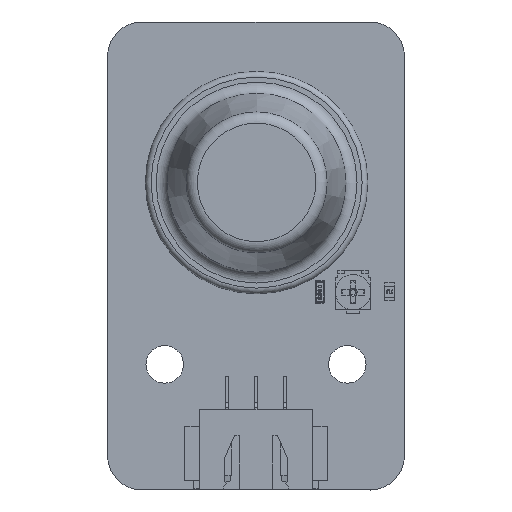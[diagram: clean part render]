
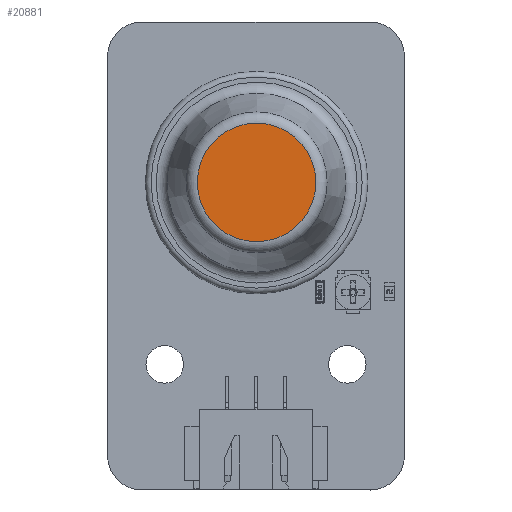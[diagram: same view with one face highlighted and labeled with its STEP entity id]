
A CAD part, top view. The second image highlights one B-rep face of the part: STEP entity #20881.
In plain terms, the highlighted planar face has unit normal (0, 0, 1) as drawn and (0, 1, 0) by its records, which use the part's own axes.
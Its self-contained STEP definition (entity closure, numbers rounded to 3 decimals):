
#20741 = TOROIDAL_SURFACE('',#20742,5.198,1.);
#20742 = AXIS2_PLACEMENT_3D('',#20743,#20744,#20745);
#20743 = CARTESIAN_POINT('',(0.,8.,0.));
#20744 = DIRECTION('',(0.,-1.,0.));
#20745 = DIRECTION('',(0.,0.,-1.));
#20800 = EDGE_CURVE('',#20801,#20801,#20803,.T.);
#20801 = VERTEX_POINT('',#20802);
#20802 = CARTESIAN_POINT('',(5.198,9.,0.));
#20803 = SURFACE_CURVE('',#20804,(#20809,#20838),.PCURVE_S1.);
#20804 = CIRCLE('',#20805,5.198);
#20805 = AXIS2_PLACEMENT_3D('',#20806,#20807,#20808);
#20806 = CARTESIAN_POINT('',(0.,9.,0.));
#20807 = DIRECTION('',(0.,-1.,0.));
#20808 = DIRECTION('',(-1.,0.,0.));
#20809 = PCURVE('',#20741,#20810);
#20810 = DEFINITIONAL_REPRESENTATION('',(#20811),#20837);
#20811 = B_SPLINE_CURVE_WITH_KNOTS('',3,(#20812,#20813,#20814,#20815,
    #20816,#20817,#20818,#20819,#20820,#20821,#20822,#20823,#20824,
    #20825,#20826,#20827,#20828,#20829,#20830,#20831,#20832,#20833,
    #20834,#20835,#20836),.UNSPECIFIED.,.F.,.F.,(4,1,1,1,1,1,1,1,1,1,1,1
    ,1,1,1,1,1,1,1,1,1,1,4),(3.142,3.427,3.713
    ,3.998,4.284,4.57,4.855,
    5.141,5.426,5.712,5.998,
    6.283,6.569,6.854,7.14,
    7.426,7.711,7.997,8.282,
    8.568,8.854,9.139,9.425),
  .QUASI_UNIFORM_KNOTS.);
#20812 = CARTESIAN_POINT('',(1.571,4.712));
#20813 = CARTESIAN_POINT('',(1.666,4.712));
#20814 = CARTESIAN_POINT('',(1.856,4.712));
#20815 = CARTESIAN_POINT('',(2.142,4.712));
#20816 = CARTESIAN_POINT('',(2.428,4.712));
#20817 = CARTESIAN_POINT('',(2.713,4.712));
#20818 = CARTESIAN_POINT('',(2.999,4.712));
#20819 = CARTESIAN_POINT('',(3.284,4.712));
#20820 = CARTESIAN_POINT('',(3.57,4.712));
#20821 = CARTESIAN_POINT('',(3.856,4.712));
#20822 = CARTESIAN_POINT('',(4.141,4.712));
#20823 = CARTESIAN_POINT('',(4.427,4.712));
#20824 = CARTESIAN_POINT('',(4.712,4.712));
#20825 = CARTESIAN_POINT('',(4.998,4.712));
#20826 = CARTESIAN_POINT('',(5.284,4.712));
#20827 = CARTESIAN_POINT('',(5.569,4.712));
#20828 = CARTESIAN_POINT('',(5.855,4.712));
#20829 = CARTESIAN_POINT('',(6.14,4.712));
#20830 = CARTESIAN_POINT('',(6.426,4.712));
#20831 = CARTESIAN_POINT('',(6.712,4.712));
#20832 = CARTESIAN_POINT('',(6.997,4.712));
#20833 = CARTESIAN_POINT('',(7.283,4.712));
#20834 = CARTESIAN_POINT('',(7.568,4.712));
#20835 = CARTESIAN_POINT('',(7.759,4.712));
#20836 = CARTESIAN_POINT('',(7.854,4.712));
#20837 = ( GEOMETRIC_REPRESENTATION_CONTEXT(2) 
PARAMETRIC_REPRESENTATION_CONTEXT() REPRESENTATION_CONTEXT('2D SPACE',''
  ) );
#20838 = PCURVE('',#20839,#20844);
#20839 = PLANE('',#20840);
#20840 = AXIS2_PLACEMENT_3D('',#20841,#20842,#20843);
#20841 = CARTESIAN_POINT('',(6.,9.,0.));
#20842 = DIRECTION('',(0.,1.,0.));
#20843 = DIRECTION('',(0.,0.,1.));
#20844 = DEFINITIONAL_REPRESENTATION('',(#20845),#20853);
#20845 = ( BOUNDED_CURVE() B_SPLINE_CURVE(2,(#20846,#20847,#20848,#20849
    ,#20850,#20851,#20852),.UNSPECIFIED.,.F.,.F.) 
B_SPLINE_CURVE_WITH_KNOTS((1,2,2,2,2,1),(-2.094,0.,
    2.094,4.189,6.283,8.378),
.UNSPECIFIED.) CURVE() GEOMETRIC_REPRESENTATION_ITEM() 
RATIONAL_B_SPLINE_CURVE((1.,0.5,1.,0.5,1.,0.5,1.)) REPRESENTATION_ITEM(
  '') );
#20846 = CARTESIAN_POINT('',(0.,-11.198));
#20847 = CARTESIAN_POINT('',(-9.003,-11.198));
#20848 = CARTESIAN_POINT('',(-4.501,-3.401));
#20849 = CARTESIAN_POINT('',(0.,4.396));
#20850 = CARTESIAN_POINT('',(4.501,-3.401));
#20851 = CARTESIAN_POINT('',(9.003,-11.198));
#20852 = CARTESIAN_POINT('',(0.,-11.198));
#20853 = ( GEOMETRIC_REPRESENTATION_CONTEXT(2) 
PARAMETRIC_REPRESENTATION_CONTEXT() REPRESENTATION_CONTEXT('2D SPACE',''
  ) );
#20881 = ADVANCED_FACE('',(#20882),#20839,.T.);
#20882 = FACE_BOUND('',#20883,.T.);
#20883 = EDGE_LOOP('',(#20884));
#20884 = ORIENTED_EDGE('',*,*,#20800,.F.);
